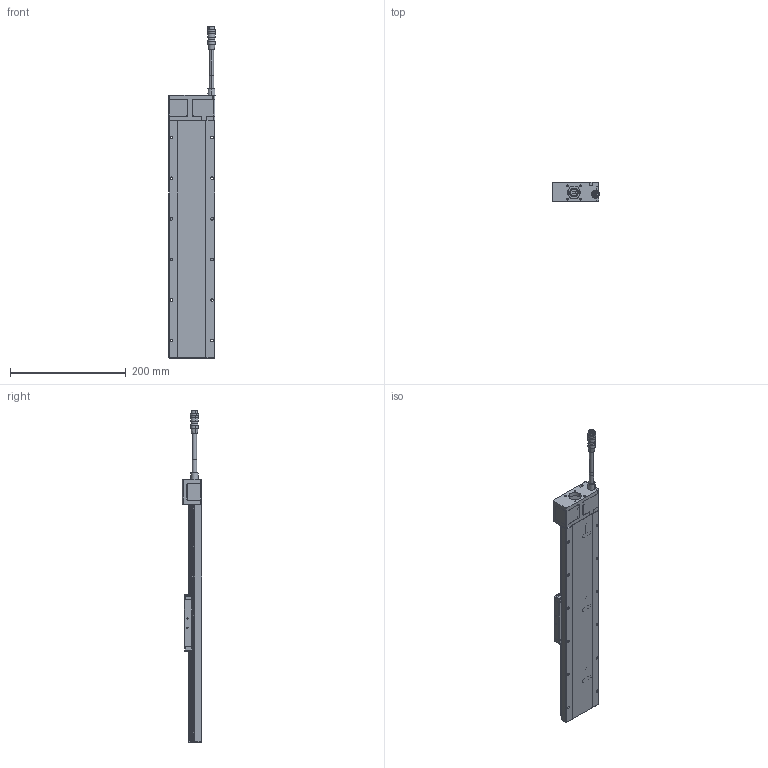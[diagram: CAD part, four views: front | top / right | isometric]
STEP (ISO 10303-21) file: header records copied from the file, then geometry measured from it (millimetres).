
FILE_DESCRIPTION (( 'STEP AP203' ), '1' );
FILE_NAME ('CXN80300-S2?N(2023·sª©).ST', '2024-01-05T05:21:24', ( '' ), ( '' ), 'SwSTEP 2.0', 'SolidWorks 2019', '' );
FILE_SCHEMA (( 'CONFIG_CONTROL_DESIGN' ));
Length unit declared in the file: millimetre
Products named in the file (4): CXN80300-S2?N(2023新版); HR10A-10J-12P_帶線示意; Group5^CXN80300-S2?N(28框無馬達)_defeature_GMT; Group4^CXN80300-S2?N(28框無馬達)_defeature_GMT
Assembly tree (3 placements, depth 2):
  CXN80300-S2?N(2023新版)
    Group4^CXN80300-S2?N(28框無馬達)_defeature_GMT
    Group5^CXN80300-S2?N(28框無馬達)_defeature_GMT
    HR10A-10J-12P_帶線示意
Bounding box: 80.99 x 33.5 x 572.5 mm (x, y, z)
Volume: 63807.8 mm3; surface area: 184208 mm2
Topology: 28 solids, 30 shells, 3653 faces, 9294 edges, 5671 vertices
Faces by surface type: plane 1285, cylinder 1081, cone 513, bspline 324, torus 268, sphere 182
Entity records: 124290 total; most frequent: CARTESIAN_POINT 36731, DIRECTION 18628, ORIENTED_EDGE 18208, EDGE_CURVE 9104, AXIS2_PLACEMENT_3D 7056, VERTEX_POINT 5631, LINE 4516, VECTOR 4516
